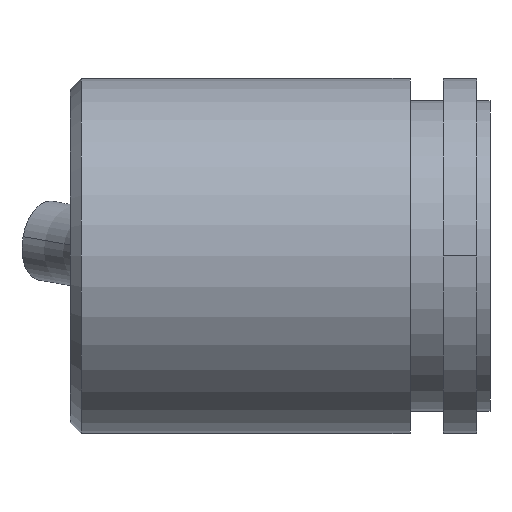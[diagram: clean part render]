
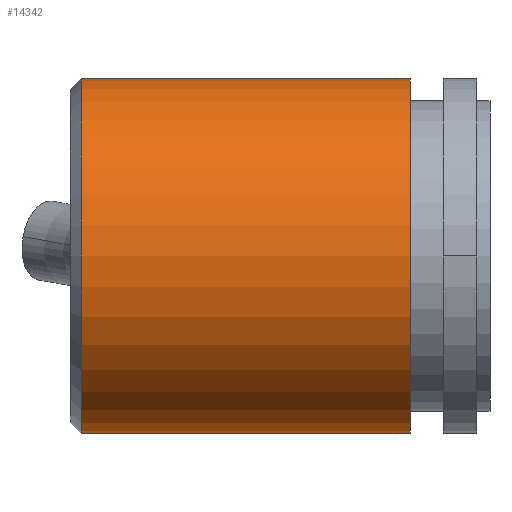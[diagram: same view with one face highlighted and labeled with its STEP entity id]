
A CAD part, left-side view. The second image highlights one B-rep face of the part: STEP entity #14342.
In plain terms, the highlighted cylindrical face has radius 8 mm (diameter 16 mm), a partial arc.
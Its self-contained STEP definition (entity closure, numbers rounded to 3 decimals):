
#27 = CARTESIAN_POINT ( 'NONE',  ( 0., 8.1, 0. ) ) ;
#168 = VERTEX_POINT ( 'NONE', #14445 ) ;
#753 = EDGE_CURVE ( 'NONE', #13302, #168, #1619, .T. ) ;
#761 = LINE ( 'NONE', #5565, #10561 ) ;
#1401 = AXIS2_PLACEMENT_3D ( 'NONE', #15163, #13569, #2292 ) ;
#1619 = LINE ( 'NONE', #2775, #6481 ) ;
#2292 = DIRECTION ( 'NONE',  ( 0., 0., 1. ) ) ;
#2455 = ORIENTED_EDGE ( 'NONE', *, *, #6888, .F. ) ;
#2647 = EDGE_CURVE ( 'NONE', #13227, #14349, #761, .T. ) ;
#2775 = CARTESIAN_POINT ( 'NONE',  ( 0., 8.1, -8. ) ) ;
#3034 = DIRECTION ( 'NONE',  ( 0., -1., 0. ) ) ;
#3395 = CARTESIAN_POINT ( 'NONE',  ( 0., 8.1, 0. ) ) ;
#4642 = CYLINDRICAL_SURFACE ( 'NONE', #7252, 8. ) ;
#4890 = CARTESIAN_POINT ( 'NONE',  ( 0., 8.1, 8. ) ) ;
#5040 = DIRECTION ( 'NONE',  ( 0., -1., 0. ) ) ;
#5525 = CARTESIAN_POINT ( 'NONE',  ( 0., 22.9, 8. ) ) ;
#5565 = CARTESIAN_POINT ( 'NONE',  ( 0., 8.1, 8. ) ) ;
#6309 = EDGE_LOOP ( 'NONE', ( #13706, #16356, #12942, #2455 ) ) ;
#6481 = VECTOR ( 'NONE', #12991, 1000. ) ;
#6888 = EDGE_CURVE ( 'NONE', #14349, #168, #15842, .T. ) ;
#7252 = AXIS2_PLACEMENT_3D ( 'NONE', #3395, #16277, #12281 ) ;
#10079 = DIRECTION ( 'NONE',  ( 0., 0., -1. ) ) ;
#10215 = EDGE_CURVE ( 'NONE', #13227, #13302, #10395, .T. ) ;
#10395 = CIRCLE ( 'NONE', #1401, 8. ) ;
#10561 = VECTOR ( 'NONE', #3034, 1000. ) ;
#11327 = AXIS2_PLACEMENT_3D ( 'NONE', #27, #5040, #10079 ) ;
#12130 = FACE_OUTER_BOUND ( 'NONE', #6309, .T. ) ;
#12281 = DIRECTION ( 'NONE',  ( 0., 0., -1. ) ) ;
#12776 = CARTESIAN_POINT ( 'NONE',  ( 0., 22.9, -8. ) ) ;
#12942 = ORIENTED_EDGE ( 'NONE', *, *, #753, .T. ) ;
#12991 = DIRECTION ( 'NONE',  ( 0., -1., 0. ) ) ;
#13227 = VERTEX_POINT ( 'NONE', #5525 ) ;
#13302 = VERTEX_POINT ( 'NONE', #12776 ) ;
#13569 = DIRECTION ( 'NONE',  ( 0., -1., 0. ) ) ;
#13706 = ORIENTED_EDGE ( 'NONE', *, *, #2647, .F. ) ;
#14342 = ADVANCED_FACE ( 'NONE', ( #12130 ), #4642, .T. ) ;
#14349 = VERTEX_POINT ( 'NONE', #4890 ) ;
#14445 = CARTESIAN_POINT ( 'NONE',  ( 0., 8.1, -8. ) ) ;
#15163 = CARTESIAN_POINT ( 'NONE',  ( 0., 22.9, 0. ) ) ;
#15842 = CIRCLE ( 'NONE', #11327, 8. ) ;
#16277 = DIRECTION ( 'NONE',  ( 0., -1., 0. ) ) ;
#16356 = ORIENTED_EDGE ( 'NONE', *, *, #10215, .T. ) ;
